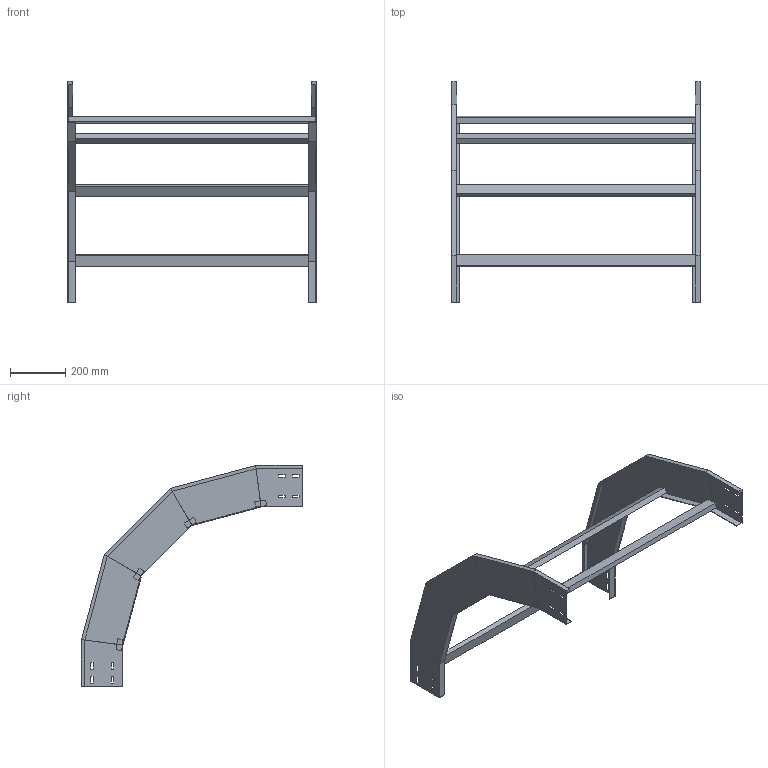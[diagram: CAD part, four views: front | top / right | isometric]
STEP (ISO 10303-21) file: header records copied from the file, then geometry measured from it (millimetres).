
FILE_DESCRIPTION (( 'STEP AP214' ), '1' );
FILE_NAME ('33J5F900.step', '2025-02-21T16:23:26', ( '' ), ( '' ), 'SwSTEP 2.0', 'SolidWorks 2023', '' );
FILE_SCHEMA (( 'AUTOMOTIVE_DESIGN' ));
Length unit declared in the file: millimetre
Products named in the file (3): 33J5F900; TRAVERSINO_900; LONGH.DISCESA_90°_H150_R500
Assembly tree (6 placements, depth 2):
  33J5F900
    LONGH.DISCESA_90°_H150_R500  x2
    TRAVERSINO_900  x4
Bounding box: 900 x 800.35 x 800.35 mm (x, y, z)
Volume: 4223781.6 mm3; surface area: 1356510.1 mm2
Topology: 6 solids, 6 shells, 172 faces, 416 edges, 256 vertices
Faces by surface type: plane 172
Entity records: 2416 total; most frequent: CARTESIAN_POINT 405, ORIENTED_EDGE 392, DIRECTION 374, VECTOR 196, LINE 196, EDGE_CURVE 196, VERTEX_POINT 120, EDGE_LOOP 96
